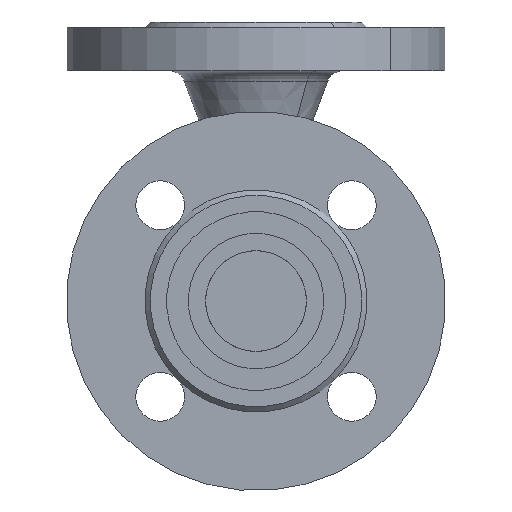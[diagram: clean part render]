
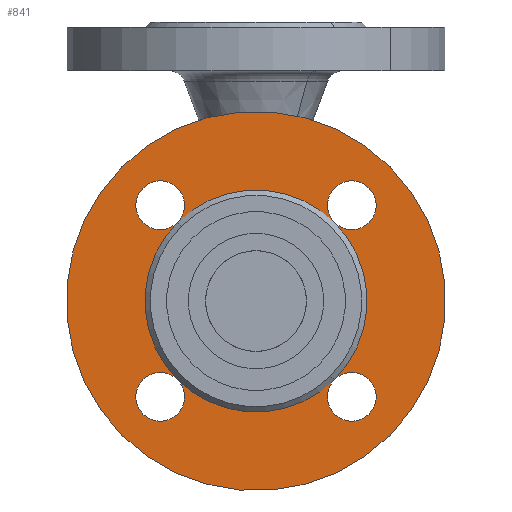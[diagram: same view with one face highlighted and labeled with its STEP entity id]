
A CAD part, front view. The second image highlights one B-rep face of the part: STEP entity #841.
In plain terms, the highlighted planar face has unit normal (0, -1, 0).
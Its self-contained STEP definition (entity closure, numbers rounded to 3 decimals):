
#123 = ORIENTED_EDGE ( 'NONE', *, *, #6277, .F. ) ;
#615 = EDGE_LOOP ( 'NONE', ( #123, #15845 ) ) ;
#841 = ADVANCED_FACE ( 'NONE', ( #13875, #13876 ), #13880, .F. ) ;
#1402 = EDGE_CURVE ( 'NONE', #3938, #14917, #5808, .T. ) ;
#2204 = EDGE_CURVE ( 'NONE', #7597, #7802, #9304, .T. ) ;
#3938 = VERTEX_POINT ( 'NONE', #11596 ) ;
#5808 = CIRCLE ( 'NONE', #5809, 41. ) ;
#5809 = AXIS2_PLACEMENT_3D ( 'NONE', #5810, #5811, #5812 ) ;
#5810 = CARTESIAN_POINT ( 'NONE',  ( 0., 2., 0. ) ) ;
#5811 = DIRECTION ( 'NONE',  ( 0., 1., 0. ) ) ;
#5812 = DIRECTION ( 'NONE',  ( -1., 0., 0. ) ) ;
#6237 = CIRCLE ( 'NONE', #6238, 9. ) ;
#6238 = AXIS2_PLACEMENT_3D ( 'NONE', #6239, #6240, #6241 ) ;
#6239 = CARTESIAN_POINT ( 'NONE',  ( 0., 2., -50. ) ) ;
#6240 = DIRECTION ( 'NONE',  ( 0., 1., 0. ) ) ;
#6241 = DIRECTION ( 'NONE',  ( -1., 0., 0. ) ) ;
#6277 = EDGE_CURVE ( 'NONE', #7802, #7597, #6428, .T. ) ;
#6428 = CIRCLE ( 'NONE', #6429, 70. ) ;
#6429 = AXIS2_PLACEMENT_3D ( 'NONE', #6430, #6431, #6432 ) ;
#6430 = CARTESIAN_POINT ( 'NONE',  ( 0., 2., 0. ) ) ;
#6431 = DIRECTION ( 'NONE',  ( 0., 1., 0. ) ) ;
#6432 = DIRECTION ( 'NONE',  ( -1., 0., 0. ) ) ;
#6500 = EDGE_CURVE ( 'NONE', #13673, #15915, #9152, .T. ) ;
#6658 = ORIENTED_EDGE ( 'NONE', *, *, #6500, .T. ) ;
#7138 = ORIENTED_EDGE ( 'NONE', *, *, #9197, .T. ) ;
#7597 = VERTEX_POINT ( 'NONE', #10842 ) ;
#7614 = ORIENTED_EDGE ( 'NONE', *, *, #7698, .T. ) ;
#7698 = EDGE_CURVE ( 'NONE', #12524, #15706, #10984, .T. ) ;
#7802 = VERTEX_POINT ( 'NONE', #11026 ) ;
#8092 = EDGE_CURVE ( 'NONE', #12508, #12524, #11237, .T. ) ;
#8297 = VERTEX_POINT ( 'NONE', #11563 ) ;
#8433 = ORIENTED_EDGE ( 'NONE', *, *, #8092, .T. ) ;
#8503 = VERTEX_POINT ( 'NONE', #11784 ) ;
#8520 = EDGE_CURVE ( 'NONE', #15706, #3938, #11785, .T. ) ;
#8920 = ORIENTED_EDGE ( 'NONE', *, *, #12543, .T. ) ;
#9088 = CARTESIAN_POINT ( 'NONE',  ( -9., 2., 50. ) ) ;
#9152 = CIRCLE ( 'NONE', #9153, 9. ) ;
#9153 = AXIS2_PLACEMENT_3D ( 'NONE', #9154, #9155, #9156 ) ;
#9154 = CARTESIAN_POINT ( 'NONE',  ( 0., 2., 50. ) ) ;
#9155 = DIRECTION ( 'NONE',  ( 0., 1., 0. ) ) ;
#9156 = DIRECTION ( 'NONE',  ( -1., 0., 0. ) ) ;
#9197 = EDGE_CURVE ( 'NONE', #15706, #13673, #13024, .T. ) ;
#9304 = CIRCLE ( 'NONE', #9305, 70. ) ;
#9305 = AXIS2_PLACEMENT_3D ( 'NONE', #9306, #9307, #9308 ) ;
#9306 = CARTESIAN_POINT ( 'NONE',  ( 0., 2., 0. ) ) ;
#9307 = DIRECTION ( 'NONE',  ( 0., 1., 0. ) ) ;
#9308 = DIRECTION ( 'NONE',  ( -1., 0., 0. ) ) ;
#9407 = ORIENTED_EDGE ( 'NONE', *, *, #15122, .T. ) ;
#9590 = CIRCLE ( 'NONE', #9591, 9. ) ;
#9591 = AXIS2_PLACEMENT_3D ( 'NONE', #9592, #9593, #9594 ) ;
#9592 = CARTESIAN_POINT ( 'NONE',  ( 0., 2., -50. ) ) ;
#9593 = DIRECTION ( 'NONE',  ( 0., 1., 0. ) ) ;
#9594 = DIRECTION ( 'NONE',  ( -1., 0., 0. ) ) ;
#9894 = EDGE_CURVE ( 'NONE', #8297, #14917, #14093, .T. ) ;
#10235 = ORIENTED_EDGE ( 'NONE', *, *, #9894, .T. ) ;
#10458 = EDGE_CURVE ( 'NONE', #8503, #8297, #6237, .T. ) ;
#10648 = CARTESIAN_POINT ( 'NONE',  ( 0., 2., -41. ) ) ;
#10842 = CARTESIAN_POINT ( 'NONE',  ( 70., 2., 0. ) ) ;
#10984 = CIRCLE ( 'NONE', #10985, 41. ) ;
#10985 = AXIS2_PLACEMENT_3D ( 'NONE', #10986, #10988, #10989 ) ;
#10986 = CARTESIAN_POINT ( 'NONE',  ( 0., 2., 0. ) ) ;
#10988 = DIRECTION ( 'NONE',  ( 0., 1., 0. ) ) ;
#10989 = DIRECTION ( 'NONE',  ( -1., 0., 0. ) ) ;
#10995 = CARTESIAN_POINT ( 'NONE',  ( 59., 2., 0. ) ) ;
#11000 = CIRCLE ( 'NONE', #11001, 9. ) ;
#11001 = AXIS2_PLACEMENT_3D ( 'NONE', #11002, #11003, #11006 ) ;
#11002 = CARTESIAN_POINT ( 'NONE',  ( 50., 2., 0. ) ) ;
#11003 = DIRECTION ( 'NONE',  ( 0., 1., 0. ) ) ;
#11006 = DIRECTION ( 'NONE',  ( -1., 0., 0. ) ) ;
#11015 = CIRCLE ( 'NONE', #11016, 41. ) ;
#11016 = AXIS2_PLACEMENT_3D ( 'NONE', #11017, #11018, #11019 ) ;
#11017 = CARTESIAN_POINT ( 'NONE',  ( 0., 2., 0. ) ) ;
#11018 = DIRECTION ( 'NONE',  ( 0., 1., 0. ) ) ;
#11019 = DIRECTION ( 'NONE',  ( -1., 0., 0. ) ) ;
#11026 = CARTESIAN_POINT ( 'NONE',  ( -70., 2., 0. ) ) ;
#11237 = CIRCLE ( 'NONE', #11238, 9. ) ;
#11238 = AXIS2_PLACEMENT_3D ( 'NONE', #11239, #11240, #11241 ) ;
#11239 = CARTESIAN_POINT ( 'NONE',  ( -50., 2., 0. ) ) ;
#11240 = DIRECTION ( 'NONE',  ( 0., 1., 0. ) ) ;
#11241 = DIRECTION ( 'NONE',  ( -1., 0., 0. ) ) ;
#11563 = CARTESIAN_POINT ( 'NONE',  ( -9., 2., -50. ) ) ;
#11596 = CARTESIAN_POINT ( 'NONE',  ( 41., 2., 0. ) ) ;
#11665 = CARTESIAN_POINT ( 'NONE',  ( 0., 2., 41. ) ) ;
#11707 = CARTESIAN_POINT ( 'NONE',  ( -59., 2., 0. ) ) ;
#11784 = CARTESIAN_POINT ( 'NONE',  ( 9., 2., -50. ) ) ;
#11785 = CIRCLE ( 'NONE', #11786, 41. ) ;
#11786 = AXIS2_PLACEMENT_3D ( 'NONE', #11787, #11789, #11790 ) ;
#11787 = CARTESIAN_POINT ( 'NONE',  ( 0., 2., 0. ) ) ;
#11789 = DIRECTION ( 'NONE',  ( 0., 1., 0. ) ) ;
#11790 = DIRECTION ( 'NONE',  ( -1., 0., 0. ) ) ;
#11894 = CARTESIAN_POINT ( 'NONE',  ( 9., 2., 50. ) ) ;
#11914 = CARTESIAN_POINT ( 'NONE',  ( -41., 2., 0. ) ) ;
#11947 = CIRCLE ( 'NONE', #11948, 9. ) ;
#11948 = AXIS2_PLACEMENT_3D ( 'NONE', #11949, #11950, #11951 ) ;
#11949 = CARTESIAN_POINT ( 'NONE',  ( 50., 2., 0. ) ) ;
#11950 = DIRECTION ( 'NONE',  ( 0., 1., 0. ) ) ;
#11951 = DIRECTION ( 'NONE',  ( -1., 0., 0. ) ) ;
#11997 = CIRCLE ( 'NONE', #11998, 9. ) ;
#11998 = AXIS2_PLACEMENT_3D ( 'NONE', #11999, #12000, #12001 ) ;
#11999 = CARTESIAN_POINT ( 'NONE',  ( 0., 2., 50. ) ) ;
#12000 = DIRECTION ( 'NONE',  ( 0., 1., 0. ) ) ;
#12001 = DIRECTION ( 'NONE',  ( -1., 0., 0. ) ) ;
#12025 = CIRCLE ( 'NONE', #12026, 9. ) ;
#12026 = AXIS2_PLACEMENT_3D ( 'NONE', #12027, #12028, #12030 ) ;
#12027 = CARTESIAN_POINT ( 'NONE',  ( -50., 2., 0. ) ) ;
#12028 = DIRECTION ( 'NONE',  ( 0., 1., 0. ) ) ;
#12030 = DIRECTION ( 'NONE',  ( -1., 0., 0. ) ) ;
#12151 = EDGE_CURVE ( 'NONE', #15054, #3938, #11000, .T. ) ;
#12495 = ORIENTED_EDGE ( 'NONE', *, *, #12151, .T. ) ;
#12508 = VERTEX_POINT ( 'NONE', #11707 ) ;
#12524 = VERTEX_POINT ( 'NONE', #11914 ) ;
#12535 = EDGE_CURVE ( 'NONE', #3938, #15054, #11947, .T. ) ;
#12543 = EDGE_CURVE ( 'NONE', #12524, #12508, #12025, .T. ) ;
#12566 = ORIENTED_EDGE ( 'NONE', *, *, #12535, .T. ) ;
#12610 = ORIENTED_EDGE ( 'NONE', *, *, #8520, .T. ) ;
#13024 = CIRCLE ( 'NONE', #13025, 9. ) ;
#13025 = AXIS2_PLACEMENT_3D ( 'NONE', #13026, #13027, #13028 ) ;
#13026 = CARTESIAN_POINT ( 'NONE',  ( 0., 2., 50. ) ) ;
#13027 = DIRECTION ( 'NONE',  ( 0., 1., 0. ) ) ;
#13028 = DIRECTION ( 'NONE',  ( -1., 0., 0. ) ) ;
#13122 = ORIENTED_EDGE ( 'NONE', *, *, #16116, .T. ) ;
#13673 = VERTEX_POINT ( 'NONE', #9088 ) ;
#13826 = ORIENTED_EDGE ( 'NONE', *, *, #10458, .T. ) ;
#13875 = FACE_OUTER_BOUND ( 'NONE', #615, .T. ) ;
#13876 = FACE_BOUND ( 'NONE', #15617, .T. ) ;
#13880 = PLANE ( 'NONE',  #13881 ) ;
#13881 = AXIS2_PLACEMENT_3D ( 'NONE', #13882, #13883, #13884 ) ;
#13882 = CARTESIAN_POINT ( 'NONE',  ( 41., 2., 0. ) ) ;
#13883 = DIRECTION ( 'NONE',  ( 0., 1., 0. ) ) ;
#13884 = DIRECTION ( 'NONE',  ( -1., 0., 0. ) ) ;
#14093 = CIRCLE ( 'NONE', #14094, 9. ) ;
#14094 = AXIS2_PLACEMENT_3D ( 'NONE', #14095, #14096, #14097 ) ;
#14095 = CARTESIAN_POINT ( 'NONE',  ( 0., 2., -50. ) ) ;
#14096 = DIRECTION ( 'NONE',  ( 0., 1., 0. ) ) ;
#14097 = DIRECTION ( 'NONE',  ( -1., 0., 0. ) ) ;
#14155 = EDGE_CURVE ( 'NONE', #14917, #8503, #9590, .T. ) ;
#14502 = ORIENTED_EDGE ( 'NONE', *, *, #14155, .T. ) ;
#14917 = VERTEX_POINT ( 'NONE', #10648 ) ;
#15054 = VERTEX_POINT ( 'NONE', #10995 ) ;
#15122 = EDGE_CURVE ( 'NONE', #14917, #12524, #11015, .T. ) ;
#15140 = ORIENTED_EDGE ( 'NONE', *, *, #1402, .T. ) ;
#15617 = EDGE_LOOP ( 'NONE', ( #15140, #14502, #13826, #10235, #9407, #8920, #8433, #7614, #7138, #6658, #13122, #12610, #12566, #12495 ) ) ;
#15706 = VERTEX_POINT ( 'NONE', #11665 ) ;
#15845 = ORIENTED_EDGE ( 'NONE', *, *, #2204, .F. ) ;
#15915 = VERTEX_POINT ( 'NONE', #11894 ) ;
#16116 = EDGE_CURVE ( 'NONE', #15915, #15706, #11997, .T. ) ;
